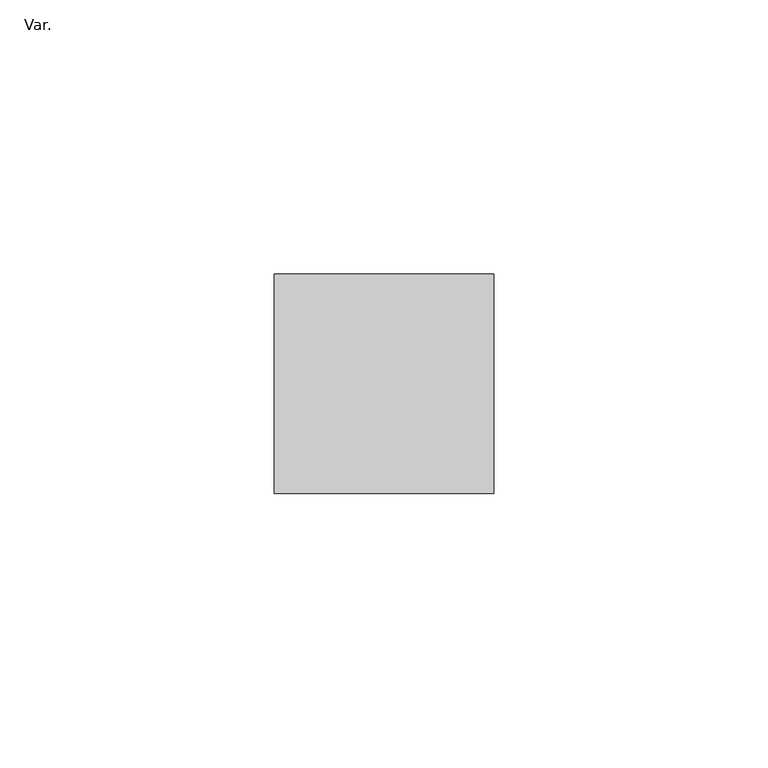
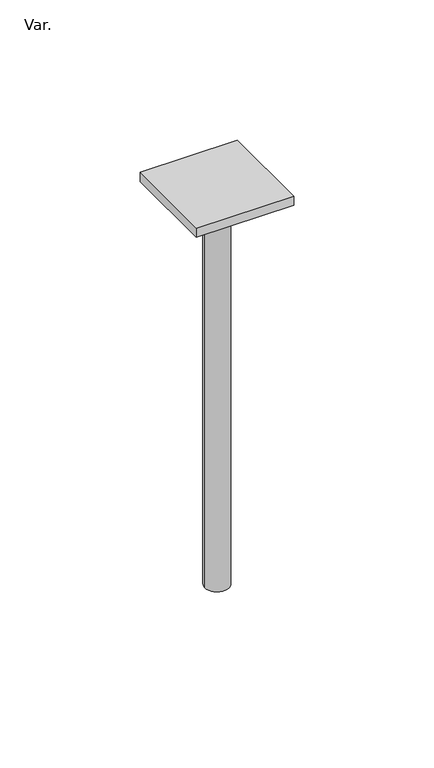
"""IFC4 building model written with IfcOpenShell, lengths in millimetres: pipe fitting geometry, AmancoWavin_ConexõesdeTubos_EsfotoSilentiumNãoUsarBarracomBase : Var.."""

from ifc_helpers import new_model, si_unit, point, frame, origin, origin_with_axes, origin_2d, place, context, project, spatial, polyline, circle_curve, trimmed, segment, composite_curve, outline, extrude, source, transform, mapped, element, save


def var_e92ba68b(model_context):
    return source(origin(), model_context, "Body", "SweptSolid", [
        extrude(outline(polyline([(20.0, 20.0), (20.0, -20.0), (-20.0, -20.0), (-20.0, 20.0), (20.0, 20.0)])), frame((0.0, 0.0, 169.8575798), z_axis=(0.0, 0.0, 1.0), x_axis=(1.0, 0.0, 0.0)), (0.0, 0.0, 1.0), 4.0),
        extrude(outline(composite_curve([segment(trimmed(circle_curve(origin_2d(), 5.0), [point((-5.0, 0.0))], [point((5.0, 0.0))], False, "CARTESIAN"), True, "CONTINUOUS"), segment(trimmed(circle_curve(origin_2d(), 5.0), [point((5.0, 0.0))], [point((-5.0, 0.0))], False, "CARTESIAN"), True, "CONTINUOUS")], self_intersect=False)), origin_with_axes(), (0.0, 0.0, 1.0), 169.8575798),
    ])


if __name__ == "__main__":
    model = new_model("IFC4")
    model_context = context("Model", 3, world=origin())
    ifc_project = project(units=[si_unit("LENGTHUNIT", "METRE", prefix="MILLI")], contexts=[model_context])
    site = spatial("IfcSite", under=ifc_project)
    building = spatial("IfcBuilding", under=site)
    placement = place(None, origin())
    var_shape = var_e92ba68b(model_context)
    element("IfcPipeFitting", 1, ObjectType="AmancoWavin_ConexõesdeTubos_EsfotoSilentiumNãoUsarBarracomBase : Var.", at=placement, inside=building, context=model_context, shape_type="MappedRepresentation", body=[
        mapped(var_shape, transform((0.0, 0.0, 0.0), x_axis=(1.0, 0.0, 0.0), y_axis=(0.0, 1.0, 0.0), z_axis=(0.0, 0.0, 1.0))),
    ])
    save(model, "model.ifc")
